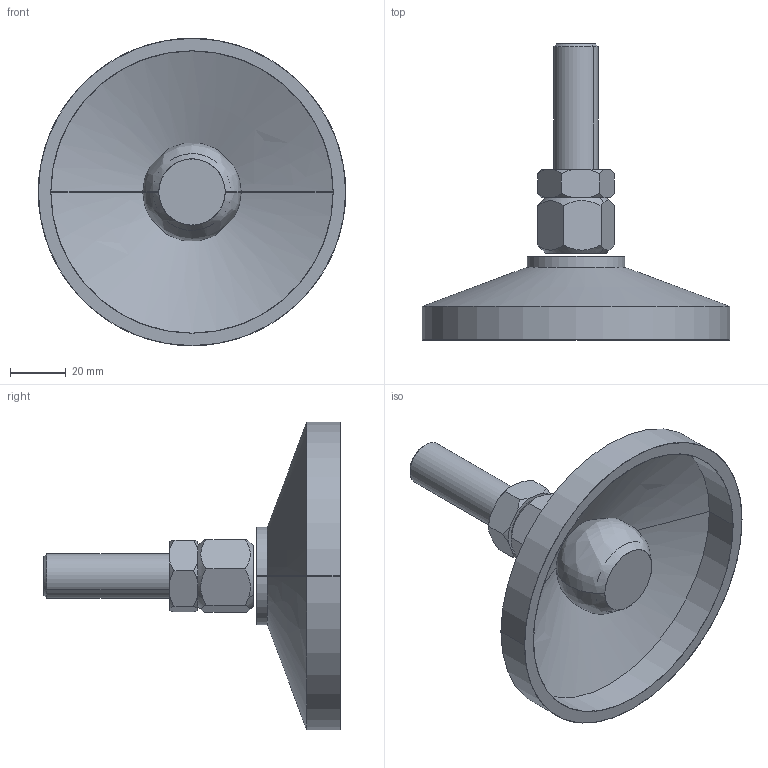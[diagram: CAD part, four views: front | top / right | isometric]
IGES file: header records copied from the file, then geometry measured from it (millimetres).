
Start section: SolidWorks IGES file using analytic representation for surfaces
Global section: file name: C:\Documents and Settings\URETIM3\Desktop\yeni katalog tolgay düzenli\A kataloðu\pabuc,saplama montajlarý\501-505 plastik pabuç ...111\paslanmaz\export\505 111 610.IGS; native system: SolidWorks 2006 by SolidWorks Corporation; preprocessor: SolidWorks 2006 by SolidWorks Corporation; author: URETIM3; date: 060911.120737; units: millimetre
Bounding box: 110 x 106 x 110 mm (x, y, z)
Surface area: 40704.8 mm2 (no closed solid volume)
Topology: 0 solids, 0 shells, 58 faces, 892 edges, 892 vertices
Faces by surface type: revolution 36, bspline 22
